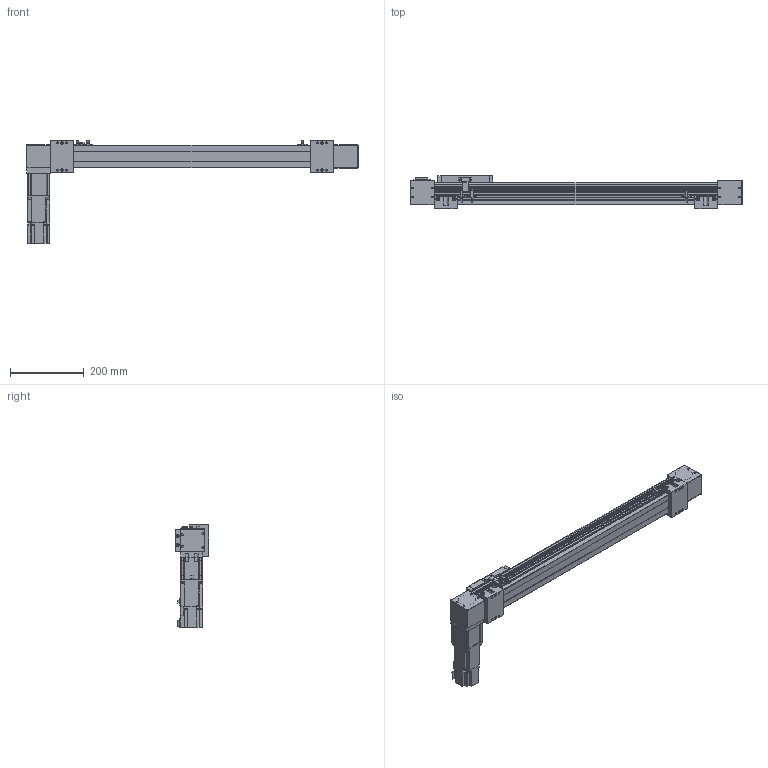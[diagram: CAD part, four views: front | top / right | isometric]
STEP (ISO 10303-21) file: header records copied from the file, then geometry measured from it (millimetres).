
FILE_DESCRIPTION(/* description */ ('STEP AP203'),/* implementation_level */ '2;1');
FILE_NAME(/* name */ 'SK60-P13-S600-BR-T40-C1-N(0)',/* time_stamp */ '2023-04-06T03:59:16+02:00',/* author */ ('License CC BY-ND 4.0'),/* organization */ ('CADENAS'),/* preprocessor_version */ 'ST-DEVELOPER v19.3',/* originating_system */ 'PARTsolutions',/* authorisation */ ' ');
FILE_SCHEMA (('CONFIG_CONTROL_DESIGN'));
Length unit declared in the file: millimetre
Products named in the file (11): SK60-P13-S600-BR-T40-C1-N(0); PSC140-sensor; SK60-S450_seat; SK60-S450-BL-C1_slider; SK60_body3; SK60_body6; SK60-BL_body2; T40-p1; SK60_body5; SK60_body4; SK60-S600-BR-C1_body
Assembly tree (17 placements, depth 2):
  SK60-P13-S600-BR-T40-C1-N(0)
    PSC140-sensor  x3
    SK60-S450_seat  x2
    SK60-S450-BL-C1_slider
    SK60_body3  x3
    SK60_body6  x2
    SK60-BL_body2  x2
    T40-p1
    SK60_body5
    SK60_body4
    SK60-S600-BR-C1_body
Bounding box: 900 x 90 x 279.1 mm (x, y, z)
Volume: 3684496.6 mm3; surface area: 534637.5 mm2
Topology: 17 solids, 21 shells, 834 faces, 2109 edges, 1394 vertices
Faces by surface type: plane 544, cylinder 266, cone 22, torus 2
Full cylindrical faces by diameter (mm): 2.8 x3, 3.3 x4, 4.2 x8, 4.5 x26, 4.6 x3, 4.917 x16, 5 x2, 5.478 x4, 5.5 x19, 6.5 x4, 8 x4, 8.5 x4, 9.988 x4, 10 x8, 13.556 x1, 14 x1, 14.586 x1, 19.692 x1, 38.432 x2, 43 x1, 44 x3, 47 x2, 50 x2
Entity records: 19371 total; most frequent: DIRECTION 3292, CARTESIAN_POINT 3289, ORIENTED_EDGE 3050, EDGE_CURVE 1525, AXIS2_PLACEMENT_3D 1100, LINE 1092, VECTOR 1092, VERTEX_POINT 1077
